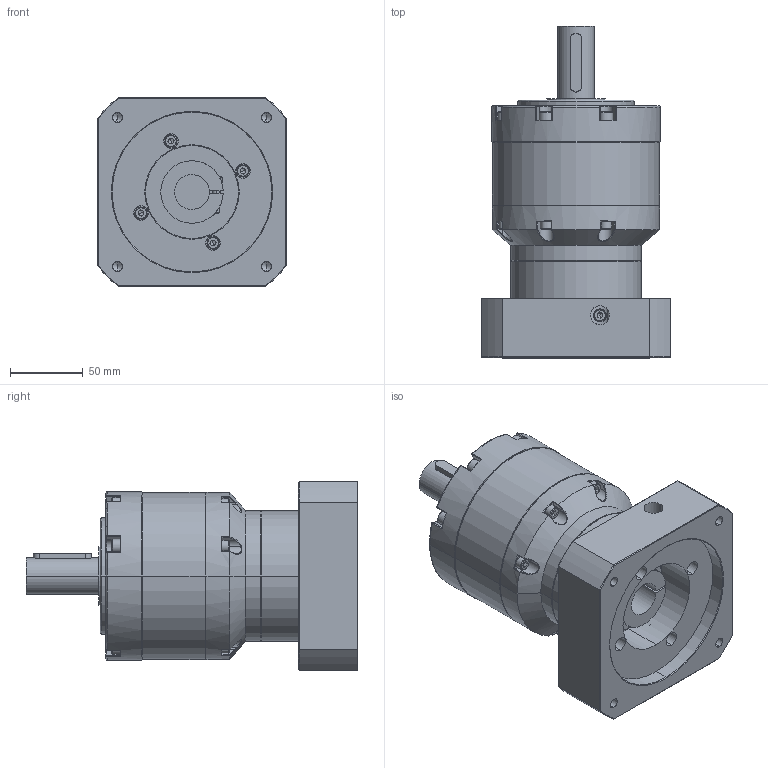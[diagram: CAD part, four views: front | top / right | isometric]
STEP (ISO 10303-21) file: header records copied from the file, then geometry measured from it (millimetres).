
FILE_DESCRIPTION (( 'STEP AP203' ), '1' );
FILE_NAME ('1G4YT.110130.143.STEP', '2019-05-16T09:23:42', ( '' ), ( '' ), 'SwSTEP 2.0', 'SolidWorks 2010', '' );
FILE_SCHEMA (( 'CONFIG_CONTROL_DESIGN' ));
Length unit declared in the file: millimetre
Products named in the file (10): M4､ｺ､ｻｨ､ﾁｳｵｷ[ｼﾒｲﾕ､ﾆ]12~70mm_M4xP0.7x30L; 沉頭內六角M5xP0.8x20L_CB5-5; 234BN35410_銑工; PAN34-BP(雙段模型)_2.?24; PBE115T-EB(模型)_10比; PBE115-B(模型)_4.成品; 1G4YT.110130.143; PNS120-FP(模型)_4.成品; 雙圓鍵 8x7x40_40; 沉頭內六角M6x30._沉頭螺絲M6x25L
Assembly tree (27 placements, depth 2):
  1G4YT.110130.143
    沉頭內六角M5xP0.8x20L_CB5-5  x11
    PNS120-FP(模型)_4.成品
    沉頭內六角M6x30._沉頭螺絲M6x25L  x6
    M4､ｺ､ｻｨ､ﾁｳｵｷ[ｼﾒｲﾕ､ﾆ]12~70mm_M4xP0.7x30L  x4
    234BN35410_銑工
    PBE115-B(模型)_4.成品
    雙圓鍵 8x7x40_40
    PAN34-BP(雙段模型)_2.?24
    PBE115T-EB(模型)_10比
Bounding box: 130 x 228.4 x 130 mm (x, y, z)
Volume: 1733041.3 mm3; surface area: 223065.3 mm2
Topology: 27 solids, 27 shells, 975 faces, 2244 edges, 1330 vertices
Faces by surface type: plane 420, cylinder 303, cone 204, bspline 30, torus 18
Entity records: 19638 total; most frequent: CARTESIAN_POINT 5912, DIRECTION 2682, ORIENTED_EDGE 2412, EDGE_CURVE 1206, AXIS2_PLACEMENT_3D 1086, VERTEX_POINT 746, EDGE_LOOP 632, CIRCLE 561
